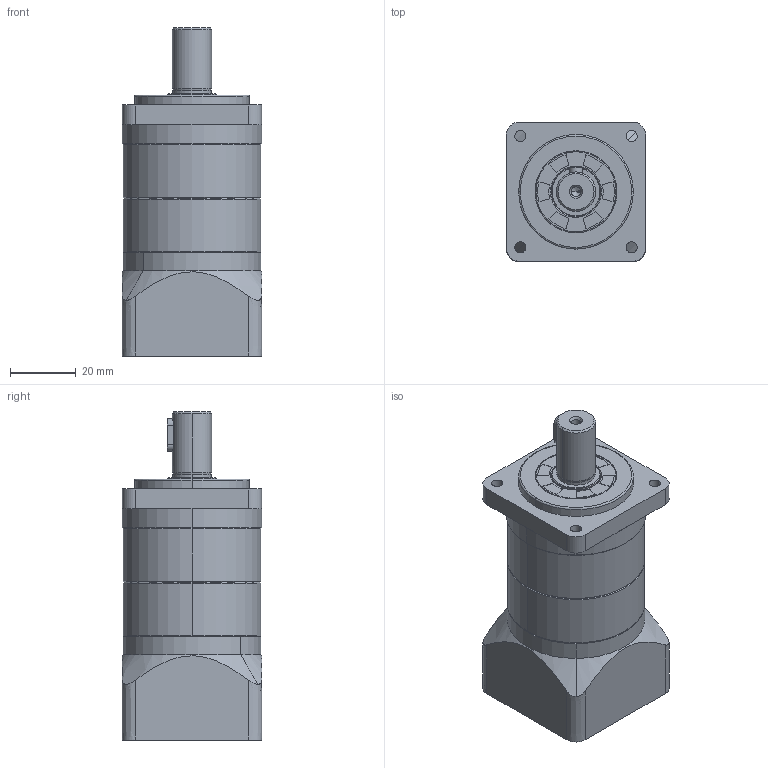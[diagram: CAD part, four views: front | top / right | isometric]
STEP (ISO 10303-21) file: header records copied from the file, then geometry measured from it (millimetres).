
FILE_DESCRIPTION (( 'STEP AP214' ), '1' );
FILE_NAME ('SB42-L2(8-30-46-M4).STEP', '2019-07-12T05:35:52', ( '' ), ( '' ), 'SwSTEP 2.0', 'SolidWorks 2016', '' );
FILE_SCHEMA (( 'AUTOMOTIVE_DESIGN' ));
Length unit declared in the file: millimetre
Products named in the file (8): SB42-(35x3-48-3.4); SN42-(12x20-4x10); SN42-(8); SB42-L2(8-30-46-M4); SN42-(30-46-M4); SN42-15x25x4; SN42; SN42-26x14x11-M4
Assembly tree (8 placements, depth 2):
  SB42-L2(8-30-46-M4)
    SB42-(35x3-48-3.4)
    SN42-(12x20-4x10)
    SN42  x2
    SN42-(30-46-M4)
    SN42-(8)
    SN42-26x14x11-M4
    SN42-15x25x4
Bounding box: 42.5 x 42.5 x 100.1 mm (x, y, z)
Volume: 102405 mm3; surface area: 38996.9 mm2
Topology: 8 solids, 11 shells, 405 faces, 1000 edges, 626 vertices
Faces by surface type: cylinder 218, plane 95, cone 54, bspline 34, torus 4
Entity records: 25280 total; most frequent: CARTESIAN_POINT 15123, ORIENTED_EDGE 1884, DIRECTION 1753, EDGE_CURVE 944, AXIS2_PLACEMENT_3D 686, VERTEX_POINT 602, EDGE_LOOP 453, ADVANCED_FACE 389
